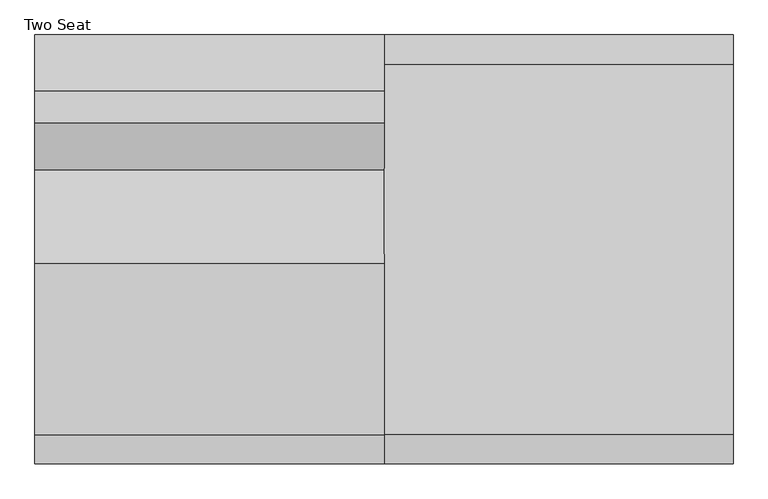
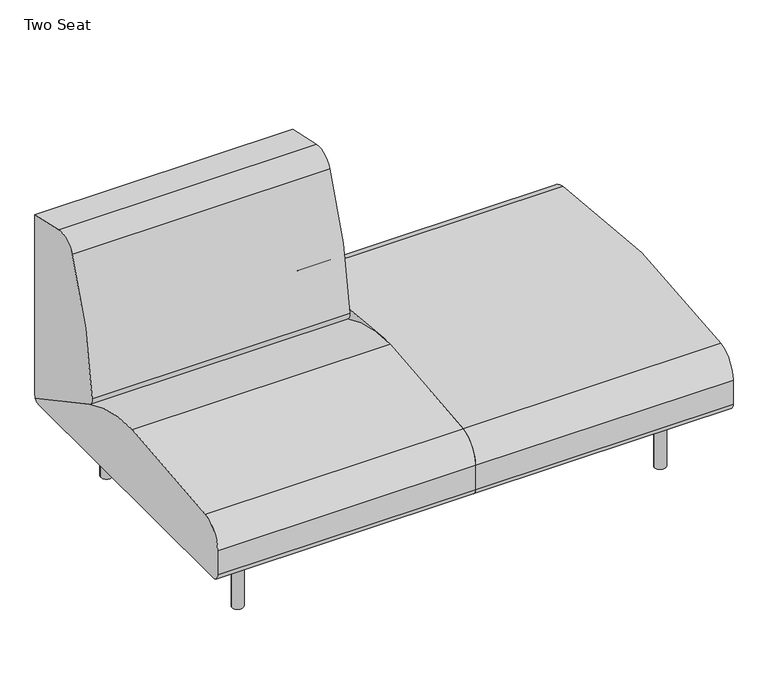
"""IFC4 building model written with IfcOpenShell, lengths in millimetres: furniture geometry, Coalesse_AM_Seating_LoungeChair_Sistema_LegBase_TwoSeat : Two Seat."""

from ifc_helpers import new_model, si_unit, point, frame, frame_2d, origin, origin_with_axes, place, context, project, spatial, polyline, circle_curve, trimmed, segment, composite_curve, outline, extrude, source, transform, mapped, element, save


def two_seat_8f00a96c(model_context):
    return source(origin(), model_context, "Body", "SweptSolid", [
        extrude(outline(composite_curve([segment(trimmed(circle_curve(frame_2d((989.1765227, 335.9943389)), 6.096), [point((995.2725227, 335.9943389))], [point((983.0805227, 335.9943389))], False, "CARTESIAN"), True, "CONTINUOUS"), segment(trimmed(circle_curve(frame_2d((989.1765227, 335.9943389)), 6.096), [point((983.0805227, 335.9943389))], [point((995.2725227, 335.9943389))], False, "CARTESIAN"), True, "CONTINUOUS")], self_intersect=False)), origin_with_axes(), (0.0, 0.0, 1.0), 4.3662291),
        extrude(outline(composite_curve([segment(trimmed(circle_curve(frame_2d((989.1765227, -327.2630889)), 6.096), [point((995.2725227, -327.2630889))], [point((983.0805227, -327.2630889))], False, "CARTESIAN"), True, "CONTINUOUS"), segment(trimmed(circle_curve(frame_2d((989.1765227, -327.2630889)), 6.096), [point((983.0805227, -327.2630889))], [point((995.2725227, -327.2630889))], False, "CARTESIAN"), True, "CONTINUOUS")], self_intersect=False)), origin_with_axes(), (0.0, 0.0, 1.0), 4.3662291),
        extrude(outline(composite_curve([segment(polyline([(157.0399209, 1001.756375), (201.7356243, 1001.756375)]), True, "CONTINUOUS"), segment(trimmed(circle_curve(frame_2d((201.7356243, 998.708375)), 3.048), [point((201.7356243, 1001.756375))], [point((204.7836243, 998.708375))], False, "CARTESIAN"), True, "CONTINUOUS"), segment(polyline([(204.7836243, 998.708375), (204.7836243, 979.366199)]), True, "CONTINUOUS"), segment(trimmed(circle_curve(frame_2d((201.7356243, 979.366199)), 3.048), [point((204.7836243, 979.366199))], [point((201.7356243, 976.318199))], False, "CARTESIAN"), True, "CONTINUOUS"), segment(polyline([(201.7356243, 976.318199), (157.1249936, 976.318199)]), True, "CONTINUOUS"), segment(trimmed(circle_curve(frame_2d((157.1249936, 979.4512718)), 3.1330728), [point((157.1249936, 976.318199))], [point((153.9919209, 979.4512718))], False, "CARTESIAN"), True, "CONTINUOUS"), segment(polyline([(153.9919209, 979.4512718), (153.9919209, 998.708375)]), True, "CONTINUOUS"), segment(trimmed(circle_curve(frame_2d((157.0399209, 998.708375)), 3.048), [point((153.9919209, 998.708375))], [point((157.0399209, 1001.756375))], False, "CARTESIAN"), True, "CONTINUOUS")], self_intersect=False)), frame((0.0, 222.3519802, 0.0), z_axis=(0.0, 1.0, 0.0), x_axis=(0.0, 0.0, 1.0)), (0.0, 0.0, 1.0), 92.6273161),
        extrude(outline(composite_curve([segment(polyline([(157.0399209, 1001.756375), (201.7356243, 1001.756375)]), True, "CONTINUOUS"), segment(trimmed(circle_curve(frame_2d((201.7356243, 998.708375)), 3.048), [point((201.7356243, 1001.756375))], [point((204.7836243, 998.708375))], False, "CARTESIAN"), True, "CONTINUOUS"), segment(polyline([(204.7836243, 998.708375), (204.7836243, 979.366199)]), True, "CONTINUOUS"), segment(trimmed(circle_curve(frame_2d((201.7356243, 979.366199)), 3.048), [point((204.7836243, 979.366199))], [point((201.7356243, 976.318199))], False, "CARTESIAN"), True, "CONTINUOUS"), segment(polyline([(201.7356243, 976.318199), (157.1249936, 976.318199)]), True, "CONTINUOUS"), segment(trimmed(circle_curve(frame_2d((157.1249936, 979.4512718)), 3.1330728), [point((157.1249936, 976.318199))], [point((153.9919209, 979.4512718))], False, "CARTESIAN"), True, "CONTINUOUS"), segment(polyline([(153.9919209, 979.4512718), (153.9919209, 998.708375)]), True, "CONTINUOUS"), segment(trimmed(circle_curve(frame_2d((157.0399209, 998.708375)), 3.048), [point((153.9919209, 998.708375))], [point((157.0399209, 1001.756375))], False, "CARTESIAN"), True, "CONTINUOUS")], self_intersect=False)), frame((0.0, -314.9792963, 0.0), z_axis=(0.0, 1.0, 0.0), x_axis=(0.0, 0.0, 1.0)), (0.0, 0.0, 1.0), 92.6273161),
        extrude(outline(composite_curve([segment(trimmed(circle_curve(frame_2d((176.3356606, 966.5259944)), 3.048), [point((179.3836606, 966.5259944))], [point((176.3356606, 963.4779944))], False, "CARTESIAN"), True, "CONTINUOUS"), segment(polyline([(176.3356606, 963.4779944), (157.0399209, 963.4779944)]), True, "CONTINUOUS"), segment(trimmed(circle_curve(frame_2d((157.0399209, 966.5259944)), 3.048), [point((157.0399209, 963.4779944))], [point((153.9919209, 966.5259944))], False, "CARTESIAN"), True, "CONTINUOUS"), segment(polyline([(153.9919209, 966.5259944), (153.9919209, 1011.2135501)]), True, "CONTINUOUS"), segment(trimmed(circle_curve(frame_2d((157.056462, 1011.2135501)), 3.0645412), [point((153.9919209, 1011.2135501))], [point((157.056462, 1014.2780913))], False, "CARTESIAN"), True, "CONTINUOUS"), segment(polyline([(157.056462, 1014.2780913), (176.3356606, 1014.2780913)]), True, "CONTINUOUS"), segment(trimmed(circle_curve(frame_2d((176.3356606, 1011.2300913)), 3.048), [point((176.3356606, 1014.2780913))], [point((179.3836606, 1011.2300913))], False, "CARTESIAN"), True, "CONTINUOUS"), segment(polyline([(179.3836606, 1011.2300913), (179.3836606, 966.5259944)]), True, "CONTINUOUS")], self_intersect=False)), frame((0.0, -222.3519802, 0.0), z_axis=(0.0, 1.0, 0.0), x_axis=(0.0, 0.0, 1.0)), (0.0, 0.0, 1.0), 444.7039604),
        extrude(outline(composite_curve([segment(trimmed(circle_curve(frame_2d((989.1765227, 332.3095741)), 16.51), [point((1005.6865227, 332.3095741))], [point((972.6665227, 332.3095741))], False, "CARTESIAN"), True, "CONTINUOUS"), segment(trimmed(circle_curve(frame_2d((989.1765227, 332.3095741)), 16.51), [point((972.6665227, 332.3095741))], [point((1005.6865227, 332.3095741))], False, "CARTESIAN"), True, "CONTINUOUS")], self_intersect=False)), frame((0.0, 0.0, 4.3662291), z_axis=(0.0, 0.0, 1.0), x_axis=(1.0, 0.0, 0.0)), (0.0, 0.0, 1.0), 200.1037709),
        extrude(outline(composite_curve([segment(trimmed(circle_curve(frame_2d((988.7796477, -327.5470741)), 16.51), [point((1005.2896477, -327.5470741))], [point((972.2696477, -327.5470741))], False, "CARTESIAN"), True, "CONTINUOUS"), segment(trimmed(circle_curve(frame_2d((988.7796477, -327.5470741)), 16.51), [point((972.2696477, -327.5470741))], [point((1005.2896477, -327.5470741))], False, "CARTESIAN"), True, "CONTINUOUS")], self_intersect=False)), frame((0.0, 0.0, 4.3662291), z_axis=(0.0, 0.0, 1.0), x_axis=(1.0, 0.0, 0.0)), (0.0, 0.0, 1.0), 200.1037709),
        extrude(outline(composite_curve([segment(polyline([(459.4795619, 775.8234697), (459.4795619, 228.1929806)]), True, "CONTINUOUS"), segment(trimmed(circle_curve(frame_2d((191.495971, 228.1929806)), 267.983591), [point((459.4795619, 228.1929806))], [point((458.9860775, 211.937276))], False, "CARTESIAN"), True, "CONTINUOUS"), segment(polyline([(458.9860775, 211.937276), (183.8457951, 360.6719742)]), True, "CONTINUOUS"), segment(trimmed(circle_curve(frame_2d((195.9245701, 383.0161724)), 25.4), [point((183.8457951, 360.6719742))], [point((170.6161698, 385.1713698))], False, "CARTESIAN"), True, "CONTINUOUS"), segment(trimmed(circle_curve(frame_2d((1327.5544182, 286.6495247)), 1161.1256023), [point((170.6161698, 385.1713698))], [point((271.1088001, 768.4537592))], False, "CARTESIAN"), True, "CONTINUOUS"), segment(trimmed(circle_curve(frame_2d((326.5730192, 743.158661)), 60.96), [point((271.1088001, 768.4537592))], [point((339.9143278, 802.6408523))], False, "CARTESIAN"), True, "CONTINUOUS"), segment(polyline([(339.9143278, 802.6408523), (459.4795619, 775.8234697)]), True, "CONTINUOUS")], self_intersect=False)), frame((-374.8034773, 0.0, 0.0), z_axis=(1.0, 0.0, 0.0), x_axis=(0.0, 1.0, 0.0)), (0.0, 0.0, 1.0), 749.3),
        extrude(outline(composite_curve([segment(trimmed(circle_curve(frame_2d((-438.9184381, 226.822)), 22.352), [point((-438.9184381, 204.47))], [point((-461.2704381, 226.822))], False, "CARTESIAN"), True, "CONTINUOUS"), segment(polyline([(-461.2704381, 226.822), (-461.2704381, 301.4421993)]), True, "CONTINUOUS"), segment(trimmed(circle_curve(frame_2d((-385.0704381, 301.4421993)), 76.2), [point((-461.2704381, 301.4421993))], [point((-398.9277015, 376.3716077))], False, "CARTESIAN"), True, "CONTINUOUS"), segment(trimmed(circle_curve(frame_2d((2.2103559, -1792.6740646)), 2205.8265729), [point((-398.9277015, 376.3716077))], [point((-31.1968175, 412.8995185))], False, "CARTESIAN"), True, "CONTINUOUS"), segment(trimmed(circle_curve(frame_2d((-24.5128424, -28.3829182)), 441.333054), [point((-31.1968175, 412.8995185))], [point((184.5757008, 360.2774035))], False, "CARTESIAN"), True, "CONTINUOUS"), segment(polyline([(184.5757008, 360.2774035), (458.9860775, 211.937276)]), True, "CONTINUOUS"), segment(trimmed(circle_curve(frame_2d((442.3266309, 226.7871991)), 22.3171991), [point((458.9860775, 211.937276))], [point((442.3266309, 204.47))], False, "CARTESIAN"), True, "CONTINUOUS"), segment(polyline([(442.3266309, 204.47), (-438.9184381, 204.47)]), True, "CONTINUOUS")], self_intersect=False)), frame((-374.8034773, 0.0, 0.0), z_axis=(1.0, 0.0, 0.0), x_axis=(0.0, 1.0, 0.0)), (0.0, 0.0, 1.0), 749.3),
        extrude(outline(composite_curve([segment(trimmed(circle_curve(frame_2d((-438.9184381, 226.822)), 22.352), [point((-438.9184381, 204.47))], [point((-461.2704381, 226.822))], False, "CARTESIAN"), True, "CONTINUOUS"), segment(polyline([(-461.2704381, 226.822), (-461.2704381, 301.4421993)]), True, "CONTINUOUS"), segment(trimmed(circle_curve(frame_2d((-385.0704381, 301.4421993)), 76.2), [point((-461.2704381, 301.4421993))], [point((-398.9279534, 376.3715612))], False, "CARTESIAN"), True, "CONTINUOUS"), segment(trimmed(circle_curve(frame_2d((-0.3717831, -1778.6727457)), 2191.5891461), [point((-398.9279534, 376.3715612))], [point((397.0993513, 376.5719464))], False, "CARTESIAN"), True, "CONTINUOUS"), segment(trimmed(circle_curve(frame_2d((383.2795619, 301.6356173)), 76.2), [point((397.0993513, 376.5719464))], [point((459.4795619, 301.6356173))], False, "CARTESIAN"), True, "CONTINUOUS"), segment(polyline([(459.4795619, 301.6356173), (459.4795619, 226.7871991)]), True, "CONTINUOUS"), segment(trimmed(circle_curve(frame_2d((437.1623628, 226.7871991)), 22.3171991), [point((459.4795619, 226.7871991))], [point((437.1623628, 204.47))], False, "CARTESIAN"), True, "CONTINUOUS"), segment(polyline([(437.1623628, 204.47), (-438.9184381, 204.47)]), True, "CONTINUOUS")], self_intersect=False)), frame((374.4965227, 0.0, 0.0), z_axis=(1.0, 0.0, 0.0), x_axis=(0.0, 1.0, 0.0)), (0.0, 0.0, 1.0), 749.3),
        extrude(outline(composite_curve([segment(trimmed(circle_curve(frame_2d((-240.1834773, 335.9943389)), 6.096), [point((-246.2794773, 335.9943389))], [point((-234.0874773, 335.9943389))], False, "CARTESIAN"), True, "CONTINUOUS"), segment(trimmed(circle_curve(frame_2d((-240.1834773, 335.9943389)), 6.096), [point((-234.0874773, 335.9943389))], [point((-246.2794773, 335.9943389))], False, "CARTESIAN"), True, "CONTINUOUS")], self_intersect=False)), origin_with_axes(), (0.0, 0.0, 1.0), 4.3662291),
        extrude(outline(composite_curve([segment(trimmed(circle_curve(frame_2d((-240.1834773, -327.2630889)), 6.096), [point((-246.2794773, -327.2630889))], [point((-234.0874773, -327.2630889))], False, "CARTESIAN"), True, "CONTINUOUS"), segment(trimmed(circle_curve(frame_2d((-240.1834773, -327.2630889)), 6.096), [point((-234.0874773, -327.2630889))], [point((-246.2794773, -327.2630889))], False, "CARTESIAN"), True, "CONTINUOUS")], self_intersect=False)), origin_with_axes(), (0.0, 0.0, 1.0), 4.3662291),
        extrude(outline(composite_curve([segment(trimmed(circle_curve(frame_2d((157.0399209, -249.7153296)), 3.048), [point((157.0399209, -252.7633296))], [point((153.9919209, -249.7153296))], False, "CARTESIAN"), True, "CONTINUOUS"), segment(polyline([(153.9919209, -249.7153296), (153.9919209, -230.4582264)]), True, "CONTINUOUS"), segment(trimmed(circle_curve(frame_2d((157.1249936, -230.4582264)), 3.1330728), [point((153.9919209, -230.4582264))], [point((157.1249936, -227.3251537))], False, "CARTESIAN"), True, "CONTINUOUS"), segment(polyline([(157.1249936, -227.3251537), (201.7356243, -227.3251537)]), True, "CONTINUOUS"), segment(trimmed(circle_curve(frame_2d((201.7356243, -230.3731537)), 3.048), [point((201.7356243, -227.3251537))], [point((204.7836243, -230.3731537))], False, "CARTESIAN"), True, "CONTINUOUS"), segment(polyline([(204.7836243, -230.3731537), (204.7836243, -249.7153296)]), True, "CONTINUOUS"), segment(trimmed(circle_curve(frame_2d((201.7356243, -249.7153296)), 3.048), [point((204.7836243, -249.7153296))], [point((201.7356243, -252.7633296))], False, "CARTESIAN"), True, "CONTINUOUS"), segment(polyline([(201.7356243, -252.7633296), (157.0399209, -252.7633296)]), True, "CONTINUOUS")], self_intersect=False)), frame((0.0, 222.3519802, 0.0), z_axis=(0.0, 1.0, 0.0), x_axis=(0.0, 0.0, 1.0)), (0.0, 0.0, 1.0), 92.6273161),
        extrude(outline(composite_curve([segment(trimmed(circle_curve(frame_2d((157.0399209, -249.7153296)), 3.048), [point((157.0399209, -252.7633296))], [point((153.9919209, -249.7153296))], False, "CARTESIAN"), True, "CONTINUOUS"), segment(polyline([(153.9919209, -249.7153296), (153.9919209, -230.4582264)]), True, "CONTINUOUS"), segment(trimmed(circle_curve(frame_2d((157.1249936, -230.4582264)), 3.1330728), [point((153.9919209, -230.4582264))], [point((157.1249936, -227.3251537))], False, "CARTESIAN"), True, "CONTINUOUS"), segment(polyline([(157.1249936, -227.3251537), (201.7356243, -227.3251537)]), True, "CONTINUOUS"), segment(trimmed(circle_curve(frame_2d((201.7356243, -230.3731537)), 3.048), [point((201.7356243, -227.3251537))], [point((204.7836243, -230.3731537))], False, "CARTESIAN"), True, "CONTINUOUS"), segment(polyline([(204.7836243, -230.3731537), (204.7836243, -249.7153296)]), True, "CONTINUOUS"), segment(trimmed(circle_curve(frame_2d((201.7356243, -249.7153296)), 3.048), [point((204.7836243, -249.7153296))], [point((201.7356243, -252.7633296))], False, "CARTESIAN"), True, "CONTINUOUS"), segment(polyline([(201.7356243, -252.7633296), (157.0399209, -252.7633296)]), True, "CONTINUOUS")], self_intersect=False)), frame((0.0, -314.9792963, 0.0), z_axis=(0.0, 1.0, 0.0), x_axis=(0.0, 0.0, 1.0)), (0.0, 0.0, 1.0), 92.6273161),
        extrude(outline(composite_curve([segment(polyline([(179.3836606, -217.532949), (179.3836606, -262.2370459)]), True, "CONTINUOUS"), segment(trimmed(circle_curve(frame_2d((176.3356606, -262.2370459)), 3.048), [point((179.3836606, -262.2370459))], [point((176.3356606, -265.2850459))], False, "CARTESIAN"), True, "CONTINUOUS"), segment(polyline([(176.3356606, -265.2850459), (157.056462, -265.2850459)]), True, "CONTINUOUS"), segment(trimmed(circle_curve(frame_2d((157.056462, -262.2205047)), 3.0645412), [point((157.056462, -265.2850459))], [point((153.9919209, -262.2205047))], False, "CARTESIAN"), True, "CONTINUOUS"), segment(polyline([(153.9919209, -262.2205047), (153.9919209, -217.532949)]), True, "CONTINUOUS"), segment(trimmed(circle_curve(frame_2d((157.0399209, -217.532949)), 3.048), [point((153.9919209, -217.532949))], [point((157.0399209, -214.484949))], False, "CARTESIAN"), True, "CONTINUOUS"), segment(polyline([(157.0399209, -214.484949), (176.3356606, -214.484949)]), True, "CONTINUOUS"), segment(trimmed(circle_curve(frame_2d((176.3356606, -217.532949)), 3.048), [point((176.3356606, -214.484949))], [point((179.3836606, -217.532949))], False, "CARTESIAN"), True, "CONTINUOUS")], self_intersect=False)), frame((0.0, -222.3519802, 0.0), z_axis=(0.0, 1.0, 0.0), x_axis=(0.0, 0.0, 1.0)), (0.0, 0.0, 1.0), 444.7039604),
        extrude(outline(composite_curve([segment(trimmed(circle_curve(frame_2d((-240.1834773, 332.3095741)), 16.51), [point((-256.6934773, 332.3095741))], [point((-223.6734773, 332.3095741))], False, "CARTESIAN"), True, "CONTINUOUS"), segment(trimmed(circle_curve(frame_2d((-240.1834773, 332.3095741)), 16.51), [point((-223.6734773, 332.3095741))], [point((-256.6934773, 332.3095741))], False, "CARTESIAN"), True, "CONTINUOUS")], self_intersect=False)), frame((0.0, 0.0, 4.3662291), z_axis=(0.0, 0.0, 1.0), x_axis=(1.0, 0.0, 0.0)), (0.0, 0.0, 1.0), 200.1037709),
        extrude(outline(composite_curve([segment(trimmed(circle_curve(frame_2d((-239.7866023, -327.5470741)), 16.51), [point((-256.2966023, -327.5470741))], [point((-223.2766023, -327.5470741))], False, "CARTESIAN"), True, "CONTINUOUS"), segment(trimmed(circle_curve(frame_2d((-239.7866023, -327.5470741)), 16.51), [point((-223.2766023, -327.5470741))], [point((-256.2966023, -327.5470741))], False, "CARTESIAN"), True, "CONTINUOUS")], self_intersect=False)), frame((0.0, 0.0, 4.3662291), z_axis=(0.0, 0.0, 1.0), x_axis=(1.0, 0.0, 0.0)), (0.0, 0.0, 1.0), 200.1037709),
    ])


if __name__ == "__main__":
    model = new_model("IFC4")
    model_context = context("Model", 3, world=origin())
    ifc_project = project(units=[si_unit("LENGTHUNIT", "METRE", prefix="MILLI")], contexts=[model_context])
    site = spatial("IfcSite", under=ifc_project)
    building = spatial("IfcBuilding", under=site)
    placement = place(None, origin())
    two_seat_shape = two_seat_8f00a96c(model_context)
    element("IfcFurniture", 1, ObjectType="Coalesse_AM_Seating_LoungeChair_Sistema_LegBase_TwoSeat : Two Seat", at=placement, inside=building, context=model_context, shape_type="MappedRepresentation", body=[
        mapped(two_seat_shape, transform((0.0, 0.0, 0.0), x_axis=(1.0, 0.0, 0.0), y_axis=(0.0, 1.0, 0.0), z_axis=(0.0, 0.0, 1.0))),
    ])
    save(model, "model.ifc")
